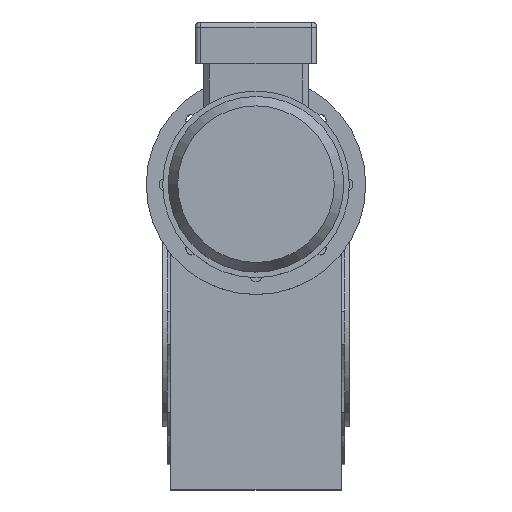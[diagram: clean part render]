
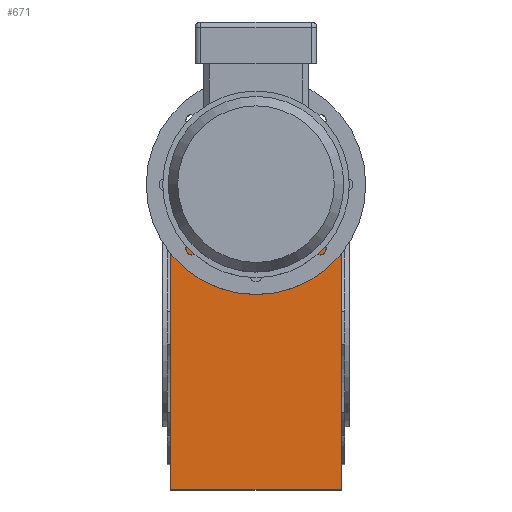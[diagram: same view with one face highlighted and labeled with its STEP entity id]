
A CAD part, top view. The second image highlights one B-rep face of the part: STEP entity #671.
In plain terms, the highlighted planar face has unit normal (0, 0, 1).
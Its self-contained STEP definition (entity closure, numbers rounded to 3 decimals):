
#671 = ADVANCED_FACE( '', ( #1886 ), #1887, .F. );
#1886 = FACE_OUTER_BOUND( '', #3815, .T. );
#1887 = PLANE( '', #3816 );
#3815 = EDGE_LOOP( '', ( #5892, #5893, #5894, #5895, #5896, #5897 ) );
#3816 = AXIS2_PLACEMENT_3D( '', #5898, #5899, #5900 );
#5892 = ORIENTED_EDGE( '', *, *, #10996, .T. );
#5893 = ORIENTED_EDGE( '', *, *, #10909, .F. );
#5894 = ORIENTED_EDGE( '', *, *, #10997, .T. );
#5895 = ORIENTED_EDGE( '', *, *, #10998, .T. );
#5896 = ORIENTED_EDGE( '', *, *, #10999, .T. );
#5897 = ORIENTED_EDGE( '', *, *, #11000, .F. );
#5898 = CARTESIAN_POINT( '', ( -105.507, 212.678, 145. ) );
#5899 = DIRECTION( '', ( 0., 0., -1. ) );
#5900 = DIRECTION( '', ( 0., 1., 0. ) );
#10909 = EDGE_CURVE( '', #12995, #12994, #12997, .T. );
#10996 = EDGE_CURVE( '', #13149, #12994, #13150, .T. );
#10997 = EDGE_CURVE( '', #12995, #13151, #13152, .T. );
#10998 = EDGE_CURVE( '', #13151, #13153, #13154, .T. );
#10999 = EDGE_CURVE( '', #13153, #13155, #13156, .T. );
#11000 = EDGE_CURVE( '', #13149, #13155, #13157, .T. );
#12994 = VERTEX_POINT( '', #16051 );
#12995 = VERTEX_POINT( '', #16052 );
#12997 = CIRCLE( '', #16054, 67. );
#13149 = VERTEX_POINT( '', #16264 );
#13150 = LINE( '', #16265, #16266 );
#13151 = VERTEX_POINT( '', #16267 );
#13152 = LINE( '', #16268, #16269 );
#13153 = VERTEX_POINT( '', #16270 );
#13154 = LINE( '', #16271, #16272 );
#13155 = VERTEX_POINT( '', #16273 );
#13156 = LINE( '', #16274, #16275 );
#13157 = LINE( '', #16276, #16277 );
#16051 = CARTESIAN_POINT( '', ( 34.391, 187.5, 145. ) );
#16052 = CARTESIAN_POINT( '', ( -34.391, 187.5, 145. ) );
#16054 = AXIS2_PLACEMENT_3D( '', #20214, #20215, #20216 );
#16264 = CARTESIAN_POINT( '', ( 77.5, 187.5, 145. ) );
#16265 = CARTESIAN_POINT( '', ( 77.5, 187.5, 145. ) );
#16266 = VECTOR( '', #20314, 1000. );
#16267 = CARTESIAN_POINT( '', ( -77.5, 187.5, 145. ) );
#16268 = CARTESIAN_POINT( '', ( 77.5, 187.5, 145. ) );
#16269 = VECTOR( '', #20315, 1000. );
#16270 = CARTESIAN_POINT( '', ( -77.5, -147.5, 145. ) );
#16271 = CARTESIAN_POINT( '', ( -77.5, 187.5, 145. ) );
#16272 = VECTOR( '', #20316, 1000. );
#16273 = CARTESIAN_POINT( '', ( 77.5, -147.5, 145. ) );
#16274 = CARTESIAN_POINT( '', ( 77.5, -147.5, 145. ) );
#16275 = VECTOR( '', #20317, 1000. );
#16276 = CARTESIAN_POINT( '', ( 77.5, 187.5, 145. ) );
#16277 = VECTOR( '', #20318, 1000. );
#20214 = CARTESIAN_POINT( '', ( 0., 130., 145. ) );
#20215 = DIRECTION( '', ( 0., 0., 1. ) );
#20216 = DIRECTION( '', ( 1., 0., 0. ) );
#20314 = DIRECTION( '', ( -1., 0., 0. ) );
#20315 = DIRECTION( '', ( -1., 0., 0. ) );
#20316 = DIRECTION( '', ( 0., -1., 0. ) );
#20317 = DIRECTION( '', ( 1., 0., 0. ) );
#20318 = DIRECTION( '', ( 0., -1., 0. ) );
